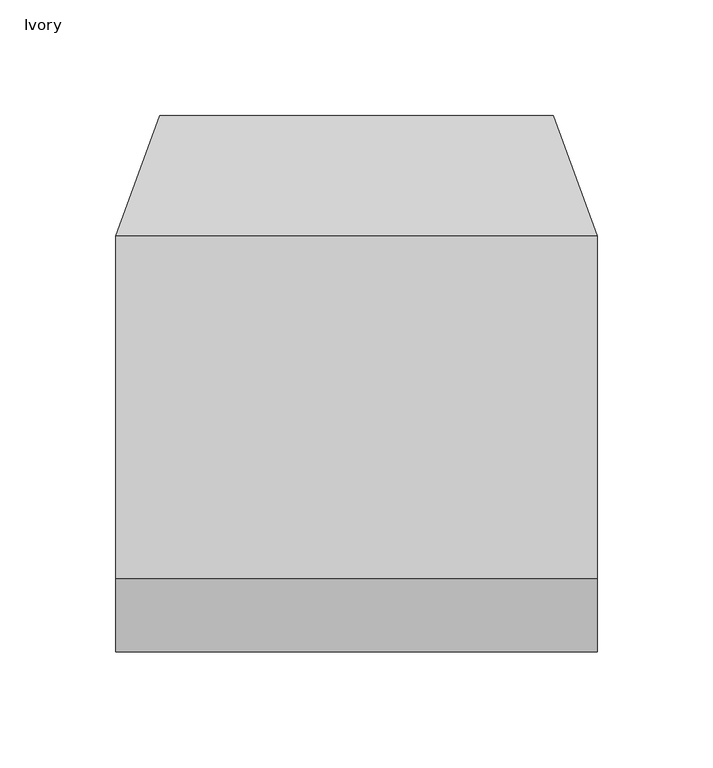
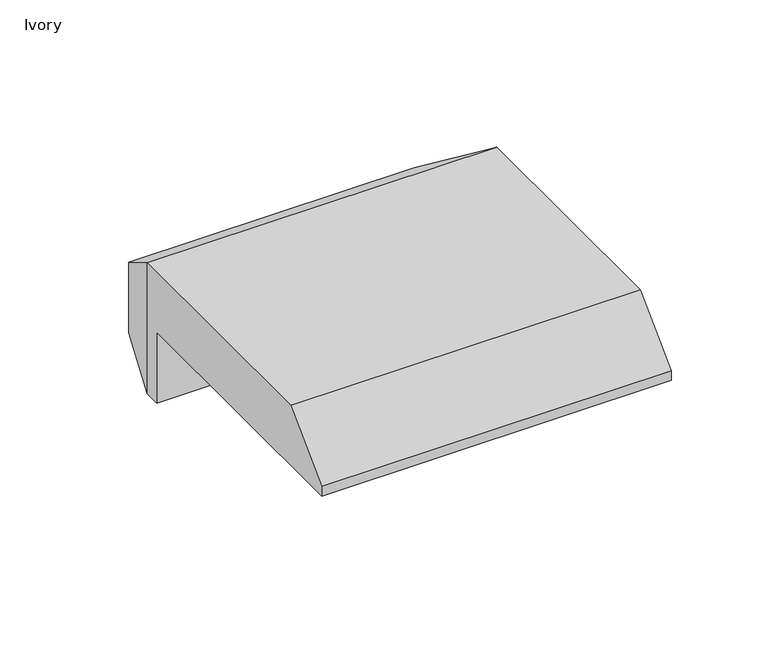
"""IFC4 building model written with IfcOpenShell, lengths in millimetres: proxy geometry, Connector-5500_Series-Wiremold-Take_Off : Ivory."""

from ifc_helpers import new_model, si_unit, origin, place, context, project, spatial, faceted_brep, source, transform, mapped, element, save


def ivory_b4b323ff(model_context):
    return source(origin(), model_context, "Body", "Brep", [
        faceted_brep([(103.9876, 94.7468498, 37.846), (103.9876, -53.1876, 37.846), (103.9876, -84.9376, 6.096), (103.9876, -84.9376, 0.0), (103.9876, 84.9376, 0.0), (103.9876, 84.9376, -44.45), (103.9876, 94.7468498, -44.45), (-103.9876, 84.9376, -44.45), (-103.9876, 84.9376, 0.0), (-103.9876, -84.9376, 0.0), (-103.9876, -84.9376, 6.096), (-103.9876, -53.1876, 37.846), (-103.9876, 94.7468498, 37.846), (-103.9876, 94.7468498, -44.45), (-84.9376, 146.8374, -44.45), (84.9376, 146.8374, -44.45), (-84.9376, 146.8374, 0.0), (84.9376, 146.8374, 0.0)], [[[0, 1, 2, 3, 4, 5, 6]], [[7, 8, 9, 10, 11, 12, 13]], [[1, 0, 12, 11]], [[2, 1, 11, 10]], [[3, 2, 10, 9]], [[4, 3, 9, 8]], [[5, 4, 8, 7]], [[5, 7, 13, 14, 15, 6]], [[15, 14, 16, 17]], [[12, 0, 17, 16]], [[0, 6, 15, 17]], [[13, 12, 16, 14]]]),
    ])


if __name__ == "__main__":
    model = new_model("IFC4")
    model_context = context("Model", 3, world=origin())
    ifc_project = project(units=[si_unit("LENGTHUNIT", "METRE", prefix="MILLI")], contexts=[model_context])
    site = spatial("IfcSite", under=ifc_project)
    building = spatial("IfcBuilding", under=site)
    placement = place(None, origin())
    ivory_shape = ivory_b4b323ff(model_context)
    element("IfcBuildingElementProxy", 1, Name="Connector-5500_Series-Wiremold-Take_Off : Ivory", ObjectType="Connector-5500_Series-Wiremold-Take_Off : Ivory", at=placement, inside=building, context=model_context, shape_type="MappedRepresentation", body=[
        mapped(ivory_shape, transform((0.0, 0.0, 0.0), x_axis=(1.0, 0.0, 0.0), y_axis=(0.0, 1.0, 0.0), z_axis=(0.0, 0.0, 1.0))),
    ])
    save(model, "model.ifc")
